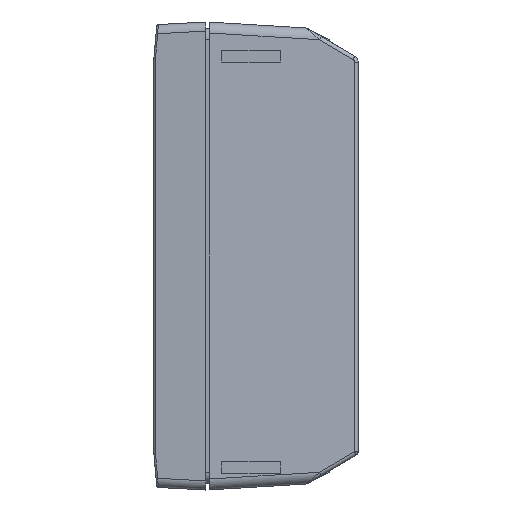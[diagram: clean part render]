
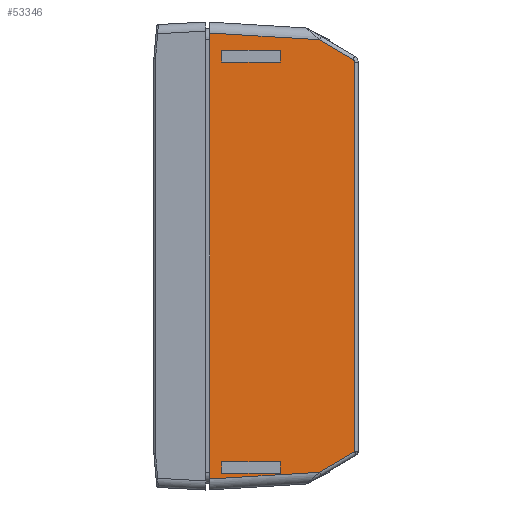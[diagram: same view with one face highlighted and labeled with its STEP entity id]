
A CAD part, left-side view. The second image highlights one B-rep face of the part: STEP entity #53346.
In plain terms, the highlighted planar face has unit normal (-0.998, -0.061, 0).
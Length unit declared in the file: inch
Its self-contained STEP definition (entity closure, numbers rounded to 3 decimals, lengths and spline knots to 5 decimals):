
#575 = VECTOR ( 'NONE', #36046, 39.37008 ) ;
#682 = DIRECTION ( 'NONE',  ( -0.998, -0.061, 0. ) ) ;
#2037 = CARTESIAN_POINT ( 'NONE',  ( 0.03688, 0.661, -1.75 ) ) ;
#2596 = VECTOR ( 'NONE', #46744, 39.37008 ) ;
#2597 = EDGE_LOOP ( 'NONE', ( #6546, #16394, #62845, #12372 ) ) ;
#3433 = VECTOR ( 'NONE', #69367, 39.37008 ) ;
#4614 = VECTOR ( 'NONE', #23219, 39.37008 ) ;
#5332 = CARTESIAN_POINT ( 'NONE',  ( 0.03688, 0.661, 1.99 ) ) ;
#5505 = EDGE_CURVE ( 'NONE', #52591, #23354, #27502, .T. ) ;
#5995 = EDGE_CURVE ( 'NONE', #45714, #67622, #57983, .T. ) ;
#6546 = ORIENTED_EDGE ( 'NONE', *, *, #11318, .T. ) ;
#6890 = LINE ( 'NONE', #47853, #62417 ) ;
#7646 = EDGE_LOOP ( 'NONE', ( #11913, #43412, #45699, #52659, #11483, #69468, #23655 ) ) ;
#7976 = CARTESIAN_POINT ( 'NONE',  ( 0., 1.264, -1.89717 ) ) ;
#8135 = EDGE_CURVE ( 'NONE', #18285, #52591, #44130, .T. ) ;
#8403 = VECTOR ( 'NONE', #11485, 39.37008 ) ;
#8654 = VERTEX_POINT ( 'NONE', #46391 ) ;
#9563 = DIRECTION ( 'NONE',  ( 0., 0., 1. ) ) ;
#10184 = LINE ( 'NONE', #5332, #65691 ) ;
#10593 = EDGE_CURVE ( 'NONE', #48766, #17765, #6890, .T. ) ;
#11161 = VECTOR ( 'NONE', #32444, 39.37008 ) ;
#11318 = EDGE_CURVE ( 'NONE', #20645, #18285, #10184, .T. ) ;
#11483 = ORIENTED_EDGE ( 'NONE', *, *, #32442, .T. ) ;
#11485 = DIRECTION ( 'NONE',  ( -0.061, 0.998, 0. ) ) ;
#11913 = ORIENTED_EDGE ( 'NONE', *, *, #63211, .T. ) ;
#12372 = ORIENTED_EDGE ( 'NONE', *, *, #37114, .T. ) ;
#12876 = LINE ( 'NONE', #27280, #11161 ) ;
#13563 = LINE ( 'NONE', #57971, #54739 ) ;
#13696 = CARTESIAN_POINT ( 'NONE',  ( 0.07484, 0.04034, 1.67021 ) ) ;
#13792 = CARTESIAN_POINT ( 'NONE',  ( 0.0063, 1.161, 1.65 ) ) ;
#14938 = DIRECTION ( 'NONE',  ( -0.061, 0.996, 0.061 ) ) ;
#15744 = CARTESIAN_POINT ( 'NONE',  ( 0., 1.264, -1.89717 ) ) ;
#16394 = ORIENTED_EDGE ( 'NONE', *, *, #8135, .T. ) ;
#17187 = CARTESIAN_POINT ( 'NONE',  ( 0.03688, 0.661, 1.99 ) ) ;
#17544 = EDGE_CURVE ( 'NONE', #30079, #65872, #46210, .T. ) ;
#17765 = VERTEX_POINT ( 'NONE', #2037 ) ;
#18285 = VERTEX_POINT ( 'NONE', #60376 ) ;
#19292 = VECTOR ( 'NONE', #31680, 39.37008 ) ;
#19857 = CARTESIAN_POINT ( 'NONE',  ( 0.05722, 0.32851, 1.83996 ) ) ;
#20375 = CARTESIAN_POINT ( 'NONE',  ( 0.07547, 0.03005, 1.647 ) ) ;
#20645 = VERTEX_POINT ( 'NONE', #42913 ) ;
#21519 = CARTESIAN_POINT ( 'NONE',  ( 0.0063, 1.161, 1.75 ) ) ;
#23219 = DIRECTION ( 'NONE',  ( -0.061, 0.998, 0. ) ) ;
#23354 = VERTEX_POINT ( 'NONE', #21519 ) ;
#23627 = CARTESIAN_POINT ( 'NONE',  ( 0.07547, 0.03005, -1.66415 ) ) ;
#23655 = ORIENTED_EDGE ( 'NONE', *, *, #17544, .T. ) ;
#24246 = ORIENTED_EDGE ( 'NONE', *, *, #31342, .T. ) ;
#24487 = CARTESIAN_POINT ( 'NONE',  ( 0.07539, 0.03142, 1.65738 ) ) ;
#26639 = AXIS2_PLACEMENT_3D ( 'NONE', #65095, #682, #38273 ) ;
#27280 = CARTESIAN_POINT ( 'NONE',  ( 0., 1.264, 1.99 ) ) ;
#27479 = PLANE ( 'NONE',  #26639 ) ;
#27502 = LINE ( 'NONE', #68522, #575 ) ;
#27972 = DIRECTION ( 'NONE',  ( 0., 0., -1. ) ) ;
#29107 = CARTESIAN_POINT ( 'NONE',  ( 0.0063, 1.161, -1.75 ) ) ;
#29258 = VECTOR ( 'NONE', #27972, 39.37008 ) ;
#29896 = CARTESIAN_POINT ( 'NONE',  ( 0.07547, 0.03005, 1.647 ) ) ;
#30079 = VERTEX_POINT ( 'NONE', #7976 ) ;
#30214 = EDGE_CURVE ( 'NONE', #45714, #61604, #31166, .T. ) ;
#30480 = VERTEX_POINT ( 'NONE', #23627 ) ;
#30878 = CARTESIAN_POINT ( 'NONE',  ( 0.07547, 0.03005, 1.99 ) ) ;
#31166 = LINE ( 'NONE', #52123, #2596 ) ;
#31342 = EDGE_CURVE ( 'NONE', #54161, #8654, #47937, .T. ) ;
#31680 = DIRECTION ( 'NONE',  ( 0.061, -0.996, 0.061 ) ) ;
#32233 = VECTOR ( 'NONE', #60076, 39.37008 ) ;
#32442 = EDGE_CURVE ( 'NONE', #61604, #45178, #64629, .T. ) ;
#32444 = DIRECTION ( 'NONE',  ( 0., 0., -1. ) ) ;
#36046 = DIRECTION ( 'NONE',  ( 0., 0., 1. ) ) ;
#37114 = EDGE_CURVE ( 'NONE', #23354, #20645, #48269, .T. ) ;
#37393 = EDGE_CURVE ( 'NONE', #30480, #67622, #65047, .T. ) ;
#37604 = CARTESIAN_POINT ( 'NONE',  ( 0.05722, 0.32851, -1.83996 ) ) ;
#38273 = DIRECTION ( 'NONE',  ( 0.061, -0.998, 0. ) ) ;
#38352 = EDGE_LOOP ( 'NONE', ( #66867, #24246, #42586, #55946 ) ) ;
#39814 = VECTOR ( 'NONE', #41257, 39.37008 ) ;
#41257 = DIRECTION ( 'NONE',  ( 0., 0., 1. ) ) ;
#42586 = ORIENTED_EDGE ( 'NONE', *, *, #49017, .T. ) ;
#42913 = CARTESIAN_POINT ( 'NONE',  ( 0.03688, 0.661, 1.75 ) ) ;
#43412 = ORIENTED_EDGE ( 'NONE', *, *, #37393, .T. ) ;
#44130 = LINE ( 'NONE', #60804, #4614 ) ;
#44308 = FACE_BOUND ( 'NONE', #2597, .T. ) ;
#44641 = LINE ( 'NONE', #63951, #3433 ) ;
#45178 = VERTEX_POINT ( 'NONE', #53654 ) ;
#45267 = LINE ( 'NONE', #17187, #29258 ) ;
#45699 = ORIENTED_EDGE ( 'NONE', *, *, #5995, .F. ) ;
#45714 = VERTEX_POINT ( 'NONE', #51468 ) ;
#45896 = CARTESIAN_POINT ( 'NONE',  ( 0.07507, 0.03658, 1.66639 ) ) ;
#46019 = FACE_BOUND ( 'NONE', #38352, .T. ) ;
#46210 = LINE ( 'NONE', #15744, #19292 ) ;
#46391 = CARTESIAN_POINT ( 'NONE',  ( 0.0063, 1.161, -1.85 ) ) ;
#46744 = DIRECTION ( 'NONE',  ( -0.053, 0.86, 0.507 ) ) ;
#47853 = CARTESIAN_POINT ( 'NONE',  ( 0., 1.264, -1.75 ) ) ;
#47937 = LINE ( 'NONE', #54497, #8403 ) ;
#48269 = LINE ( 'NONE', #54685, #32233 ) ;
#48766 = VERTEX_POINT ( 'NONE', #29107 ) ;
#49017 = EDGE_CURVE ( 'NONE', #8654, #48766, #13563, .T. ) ;
#50654 = CARTESIAN_POINT ( 'NONE',  ( 0.03688, 0.661, -1.85 ) ) ;
#51468 = CARTESIAN_POINT ( 'NONE',  ( 0.07457, 0.04482, 1.67285 ) ) ;
#52123 = CARTESIAN_POINT ( 'NONE',  ( 0.07457, 0.04482, 1.67285 ) ) ;
#52591 = VERTEX_POINT ( 'NONE', #13792 ) ;
#52659 = ORIENTED_EDGE ( 'NONE', *, *, #30214, .T. ) ;
#53346 = ADVANCED_FACE ( 'NONE', ( #44308, #60265, #46019 ), #27479, .T. ) ;
#53654 = CARTESIAN_POINT ( 'NONE',  ( 0., 1.264, 1.89717 ) ) ;
#53696 = VECTOR ( 'NONE', #14938, 39.37008 ) ;
#54161 = VERTEX_POINT ( 'NONE', #50654 ) ;
#54497 = CARTESIAN_POINT ( 'NONE',  ( 0., 1.264, -1.85 ) ) ;
#54685 = CARTESIAN_POINT ( 'NONE',  ( 0., 1.264, 1.75 ) ) ;
#54739 = VECTOR ( 'NONE', #9563, 39.37008 ) ;
#55946 = ORIENTED_EDGE ( 'NONE', *, *, #10593, .T. ) ;
#56671 = CARTESIAN_POINT ( 'NONE',  ( 0.07457, 0.04482, 1.67285 ) ) ;
#56948 = EDGE_CURVE ( 'NONE', #45178, #30079, #12876, .T. ) ;
#57971 = CARTESIAN_POINT ( 'NONE',  ( 0.0063, 1.161, 1.99 ) ) ;
#57983 = B_SPLINE_CURVE_WITH_KNOTS ( 'NONE', 3,
 ( #56671, #13696, #45896, #24487, #62102, #29896 ),
 .UNSPECIFIED., .F., .F.,
 ( 4, 2, 4 ),
 ( 0., 0.5, 1. ),
 .UNSPECIFIED. ) ;
#60076 = DIRECTION ( 'NONE',  ( 0.061, -0.998, 0. ) ) ;
#60265 = FACE_OUTER_BOUND ( 'NONE', #7646, .T. ) ;
#60376 = CARTESIAN_POINT ( 'NONE',  ( 0.03688, 0.661, 1.65 ) ) ;
#60449 = CARTESIAN_POINT ( 'NONE',  ( 0.05722, 0.32851, 1.83996 ) ) ;
#60804 = CARTESIAN_POINT ( 'NONE',  ( 0., 1.264, 1.65 ) ) ;
#61604 = VERTEX_POINT ( 'NONE', #60449 ) ;
#62102 = CARTESIAN_POINT ( 'NONE',  ( 0.07547, 0.03005, 1.6522 ) ) ;
#62417 = VECTOR ( 'NONE', #64058, 39.37008 ) ;
#62845 = ORIENTED_EDGE ( 'NONE', *, *, #5505, .T. ) ;
#63211 = EDGE_CURVE ( 'NONE', #65872, #30480, #44641, .T. ) ;
#63951 = CARTESIAN_POINT ( 'NONE',  ( 0.05722, 0.32851, -1.83996 ) ) ;
#64058 = DIRECTION ( 'NONE',  ( 0.061, -0.998, 0. ) ) ;
#64629 = LINE ( 'NONE', #19857, #53696 ) ;
#65047 = LINE ( 'NONE', #30878, #39814 ) ;
#65095 = CARTESIAN_POINT ( 'NONE',  ( 0., 1.264, 1.99 ) ) ;
#65691 = VECTOR ( 'NONE', #69757, 39.37008 ) ;
#65872 = VERTEX_POINT ( 'NONE', #37604 ) ;
#66867 = ORIENTED_EDGE ( 'NONE', *, *, #67192, .T. ) ;
#67192 = EDGE_CURVE ( 'NONE', #17765, #54161, #45267, .T. ) ;
#67622 = VERTEX_POINT ( 'NONE', #20375 ) ;
#68522 = CARTESIAN_POINT ( 'NONE',  ( 0.0063, 1.161, 1.99 ) ) ;
#69367 = DIRECTION ( 'NONE',  ( 0.053, -0.86, 0.507 ) ) ;
#69468 = ORIENTED_EDGE ( 'NONE', *, *, #56948, .T. ) ;
#69757 = DIRECTION ( 'NONE',  ( 0., 0., -1. ) ) ;
